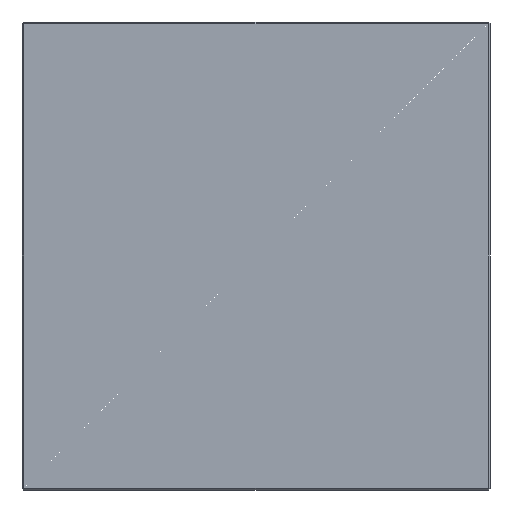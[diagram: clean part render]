
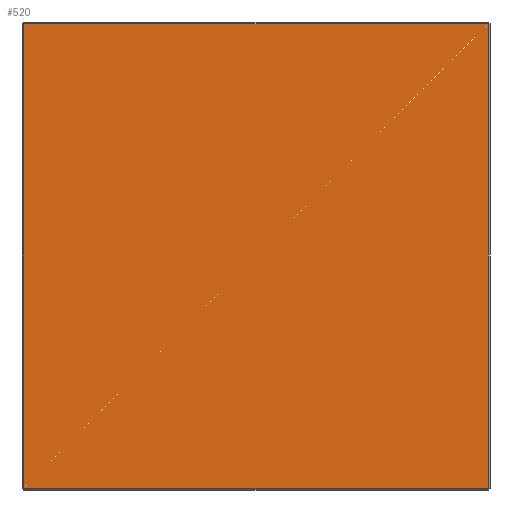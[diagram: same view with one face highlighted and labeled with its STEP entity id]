
A CAD part, front view. The second image highlights one B-rep face of the part: STEP entity #520.
In plain terms, the highlighted planar face has unit normal (0, -1, 0).
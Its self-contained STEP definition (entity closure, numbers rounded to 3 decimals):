
#31 = ORIENTED_EDGE ( 'NONE', *, *, #489, .T. ) ;
#37 = LINE ( 'NONE', #88, #236 ) ;
#63 = LINE ( 'NONE', #292, #98 ) ;
#70 = CARTESIAN_POINT ( 'NONE',  ( -122., 0., 0. ) ) ;
#72 = LINE ( 'NONE', #70, #423 ) ;
#81 = DIRECTION ( 'NONE',  ( 0., 0., 1. ) ) ;
#88 = CARTESIAN_POINT ( 'NONE',  ( 0., 0., -122. ) ) ;
#98 = VECTOR ( 'NONE', #256, 1000. ) ;
#101 = ORIENTED_EDGE ( 'NONE', *, *, #185, .T. ) ;
#107 = VERTEX_POINT ( 'NONE', #275 ) ;
#124 = CARTESIAN_POINT ( 'NONE',  ( 122., 0., 0. ) ) ;
#152 = CARTESIAN_POINT ( 'NONE',  ( 122., 0., -122. ) ) ;
#185 = EDGE_CURVE ( 'NONE', #306, #373, #483, .T. ) ;
#208 = DIRECTION ( 'NONE',  ( 0., 0., -1. ) ) ;
#209 = FACE_OUTER_BOUND ( 'NONE', #574, .T. ) ;
#228 = ORIENTED_EDGE ( 'NONE', *, *, #389, .T. ) ;
#236 = VECTOR ( 'NONE', #536, 1000. ) ;
#256 = DIRECTION ( 'NONE',  ( -1., 0., 0. ) ) ;
#264 = DIRECTION ( 'NONE',  ( 0., 1., 0. ) ) ;
#275 = CARTESIAN_POINT ( 'NONE',  ( -122., 0., 122. ) ) ;
#292 = CARTESIAN_POINT ( 'NONE',  ( 0., 0., 122. ) ) ;
#306 = VERTEX_POINT ( 'NONE', #152 ) ;
#373 = VERTEX_POINT ( 'NONE', #544 ) ;
#376 = VECTOR ( 'NONE', #81, 1000. ) ;
#389 = EDGE_CURVE ( 'NONE', #373, #107, #63, .T. ) ;
#408 = VERTEX_POINT ( 'NONE', #455 ) ;
#423 = VECTOR ( 'NONE', #208, 1000. ) ;
#455 = CARTESIAN_POINT ( 'NONE',  ( -122., 0., -122. ) ) ;
#465 = DIRECTION ( 'NONE',  ( 0., 0., 1. ) ) ;
#478 = ORIENTED_EDGE ( 'NONE', *, *, #619, .T. ) ;
#483 = LINE ( 'NONE', #124, #376 ) ;
#489 = EDGE_CURVE ( 'NONE', #408, #306, #37, .T. ) ;
#506 = CARTESIAN_POINT ( 'NONE',  ( 0., 0., 0. ) ) ;
#513 = AXIS2_PLACEMENT_3D ( 'NONE', #506, #264, #465 ) ;
#520 = ADVANCED_FACE ( 'NONE', ( #209 ), #614, .F. ) ;
#536 = DIRECTION ( 'NONE',  ( 1., 0., 0. ) ) ;
#544 = CARTESIAN_POINT ( 'NONE',  ( 122., 0., 122. ) ) ;
#574 = EDGE_LOOP ( 'NONE', ( #101, #228, #478, #31 ) ) ;
#614 = PLANE ( 'NONE',  #513 ) ;
#619 = EDGE_CURVE ( 'NONE', #107, #408, #72, .T. ) ;
